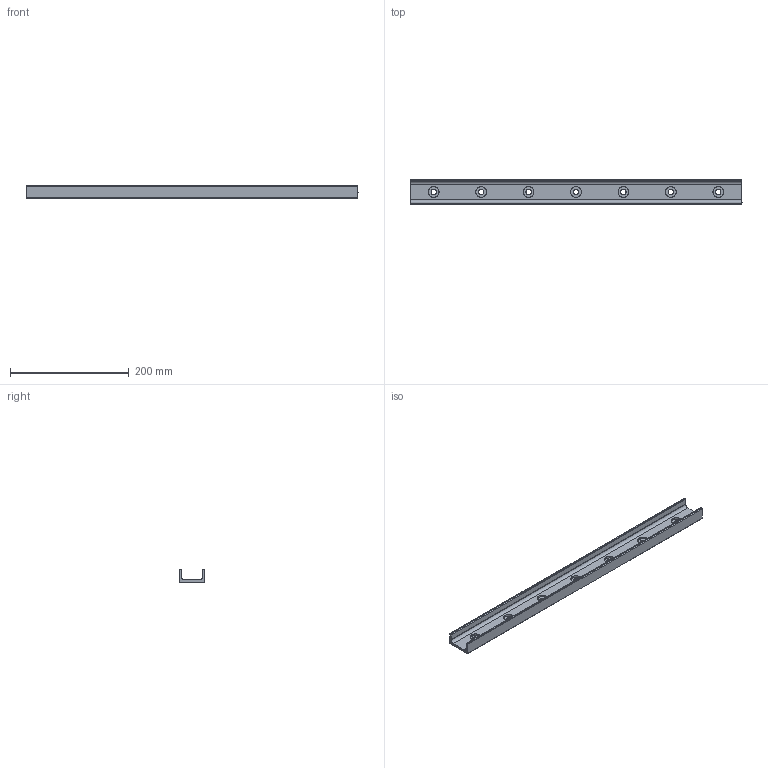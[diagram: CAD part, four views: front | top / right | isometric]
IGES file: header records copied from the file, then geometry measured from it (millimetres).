
Start section: SolidWorks IGES file using analytic representation for surfaces
Global section: file name: C:\Users\IanO\Desktop\43\L1943.ULC43_v2_20180121_IGES\L1943.ULC43-0560.igs; native system: SolidWorks 2017; preprocessor: SolidWorks 2017; author: IanO; date: 190121.084531; units: millimetre
Bounding box: 560 x 43 x 21 mm (x, y, z)
Surface area: 88345.1 mm2 (no closed solid volume)
Topology: 0 solids, 0 shells, 61 faces, 1302 edges, 1302 vertices
Faces by surface type: revolution 41, bspline 20
